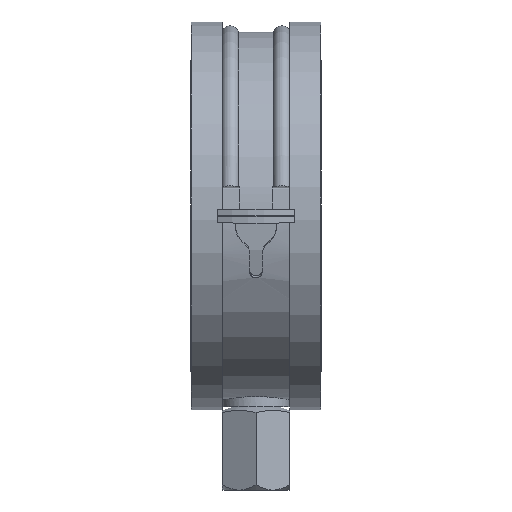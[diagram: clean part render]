
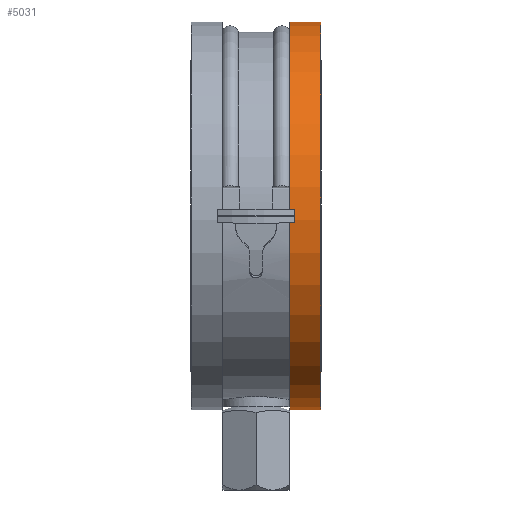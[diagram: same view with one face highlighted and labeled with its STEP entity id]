
A CAD part, left-side view. The second image highlights one B-rep face of the part: STEP entity #5031.
In plain terms, the highlighted cylindrical face has radius 37.4 mm (diameter 74.8 mm), a partial arc.
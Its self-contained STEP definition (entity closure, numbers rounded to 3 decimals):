
#517=FACE_OUTER_BOUND('',#801,.T.);
#801=EDGE_LOOP('',(#4239,#4240,#4241,#4242));
#1213=LINE('',#9018,#1615);
#1214=LINE('',#9021,#1616);
#1615=VECTOR('',#6754,1000.);
#1616=VECTOR('',#6757,1000.);
#1874=CIRCLE('',#5513,37.4);
#1875=CIRCLE('',#5515,37.4);
#2289=VERTEX_POINT('',#9008);
#2292=VERTEX_POINT('',#9013);
#2293=VERTEX_POINT('',#9017);
#2294=VERTEX_POINT('',#9019);
#2956=EDGE_CURVE('',#2292,#2289,#1874,.T.);
#2957=EDGE_CURVE('',#2293,#2292,#1213,.T.);
#2958=EDGE_CURVE('',#2293,#2294,#1875,.T.);
#2959=EDGE_CURVE('',#2294,#2289,#1214,.T.);
#4239=ORIENTED_EDGE('',*,*,#2956,.F.);
#4240=ORIENTED_EDGE('',*,*,#2957,.F.);
#4241=ORIENTED_EDGE('',*,*,#2958,.T.);
#4242=ORIENTED_EDGE('',*,*,#2959,.T.);
#4506=CYLINDRICAL_SURFACE('',#5514,37.4);
#5031=ADVANCED_FACE('',(#517),#4506,.T.);
#5513=AXIS2_PLACEMENT_3D('',#9015,#6750,#6751);
#5514=AXIS2_PLACEMENT_3D('',#9016,#6752,#6753);
#5515=AXIS2_PLACEMENT_3D('',#9020,#6755,#6756);
#6750=DIRECTION('center_axis',(0.,1.,0.));
#6751=DIRECTION('ref_axis',(1.,0.,-0.023));
#6752=DIRECTION('center_axis',(0.,1.,0.));
#6753=DIRECTION('ref_axis',(-0.981,0.,-0.193));
#6754=DIRECTION('',(0.,1.,0.));
#6755=DIRECTION('center_axis',(0.,1.,0.));
#6756=DIRECTION('ref_axis',(1.,0.,-0.023));
#6757=DIRECTION('',(0.,1.,0.));
#9008=CARTESIAN_POINT('',(34.269,-6.5,14.979));
#9013=CARTESIAN_POINT('',(37.39,-6.5,-0.866));
#9015=CARTESIAN_POINT('Origin',(0.,-6.5,0.));
#9016=CARTESIAN_POINT('Origin',(0.,0.,
0.));
#9017=CARTESIAN_POINT('',(37.39,-12.5,-0.866));
#9018=CARTESIAN_POINT('',(37.39,-6.5,-0.866));
#9019=CARTESIAN_POINT('',(34.269,-12.5,14.979));
#9020=CARTESIAN_POINT('Origin',(0.,-12.5,0.));
#9021=CARTESIAN_POINT('',(34.269,-6.5,14.979));
